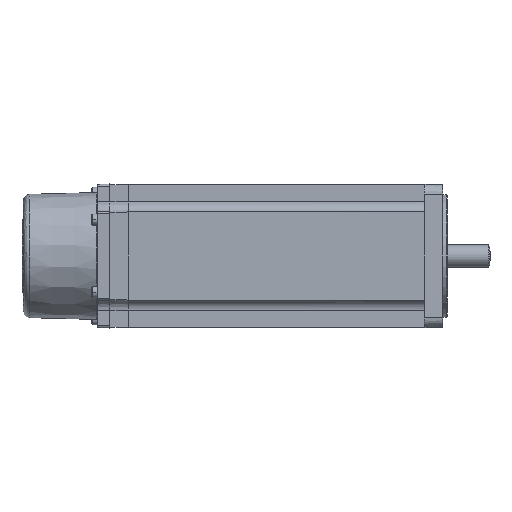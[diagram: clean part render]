
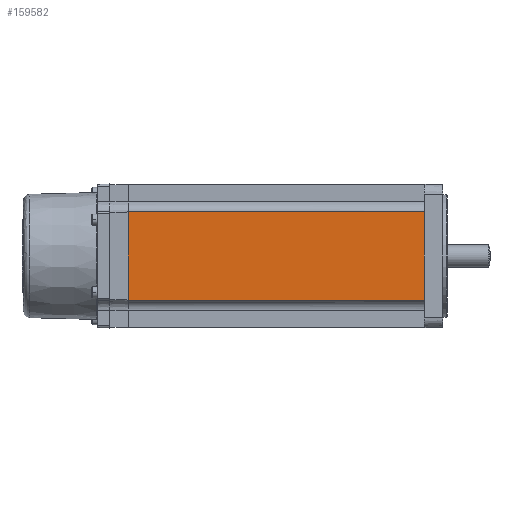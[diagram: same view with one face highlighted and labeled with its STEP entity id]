
A CAD part, front view. The second image highlights one B-rep face of the part: STEP entity #159582.
In plain terms, the highlighted planar face has unit normal (0, -1, 0) as drawn and (0, 1, 0) by its records, which use the part's own axes.
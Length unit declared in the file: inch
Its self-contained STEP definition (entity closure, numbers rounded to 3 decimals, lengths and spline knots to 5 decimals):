
#5385 = ORIENTED_EDGE ( 'NONE', *, *, #110085, .T. ) ;
#15551 = LINE ( 'NONE', #81940, #114501 ) ;
#16252 = CARTESIAN_POINT ( 'NONE',  ( -0.84711, 1.37795, 4.43307 ) ) ;
#17077 = DIRECTION ( 'NONE',  ( 1., 0., 0. ) ) ;
#20197 = CARTESIAN_POINT ( 'NONE',  ( -0.84711, 1.37795, 4.6063 ) ) ;
#26165 = CARTESIAN_POINT ( 'NONE',  ( -1.37795, 1.37795, 4.43307 ) ) ;
#28381 = VECTOR ( 'NONE', #150960, 39.37008 ) ;
#33168 = DIRECTION ( 'NONE',  ( 0., 0., -1. ) ) ;
#39163 = DIRECTION ( 'NONE',  ( 0., 1., 0. ) ) ;
#40990 = VERTEX_POINT ( 'NONE', #80030 ) ;
#51570 = PLANE ( 'NONE',  #154722 ) ;
#58639 = LINE ( 'NONE', #125023, #28381 ) ;
#69958 = VECTOR ( 'NONE', #33168, 39.37008 ) ;
#71684 = ORIENTED_EDGE ( 'NONE', *, *, #82384, .F. ) ;
#77852 = VERTEX_POINT ( 'NONE', #118930 ) ;
#80030 = CARTESIAN_POINT ( 'NONE',  ( 0.84711, 1.37795, -1.25984 ) ) ;
#81940 = CARTESIAN_POINT ( 'NONE',  ( -1.37795, 1.37795, 4.43307 ) ) ;
#82384 = EDGE_CURVE ( 'NONE', #40990, #164722, #58639, .T. ) ;
#85346 = DIRECTION ( 'NONE',  ( 1., 0., 0. ) ) ;
#95469 = EDGE_LOOP ( 'NONE', ( #71684, #121398, #122133, #5385 ) ) ;
#101430 = EDGE_CURVE ( 'NONE', #122981, #77852, #142724, .T. ) ;
#110085 = EDGE_CURVE ( 'NONE', #122981, #164722, #15551, .T. ) ;
#114501 = VECTOR ( 'NONE', #17077, 39.37008 ) ;
#118930 = CARTESIAN_POINT ( 'NONE',  ( -0.84711, 1.37795, -1.25984 ) ) ;
#120134 = VECTOR ( 'NONE', #85346, 39.37008 ) ;
#121398 = ORIENTED_EDGE ( 'NONE', *, *, #131425, .F. ) ;
#122133 = ORIENTED_EDGE ( 'NONE', *, *, #101430, .F. ) ;
#122981 = VERTEX_POINT ( 'NONE', #16252 ) ;
#125023 = CARTESIAN_POINT ( 'NONE',  ( 0.84711, 1.37795, -1.25984 ) ) ;
#129472 = DIRECTION ( 'NONE',  ( 0., 0., 1. ) ) ;
#131425 = EDGE_CURVE ( 'NONE', #77852, #40990, #154458, .T. ) ;
#135822 = FACE_OUTER_BOUND ( 'NONE', #95469, .T. ) ;
#142724 = LINE ( 'NONE', #20197, #69958 ) ;
#149729 = CARTESIAN_POINT ( 'NONE',  ( -1.37795, 1.37795, -1.25984 ) ) ;
#150960 = DIRECTION ( 'NONE',  ( 0., 0., 1. ) ) ;
#154458 = LINE ( 'NONE', #149729, #120134 ) ;
#154722 = AXIS2_PLACEMENT_3D ( 'NONE', #26165, #39163, #129472 ) ;
#159582 = ADVANCED_FACE ( 'NONE', ( #135822 ), #51570, .T. ) ;
#164722 = VERTEX_POINT ( 'NONE', #167391 ) ;
#167391 = CARTESIAN_POINT ( 'NONE',  ( 0.84711, 1.37795, 4.43307 ) ) ;
